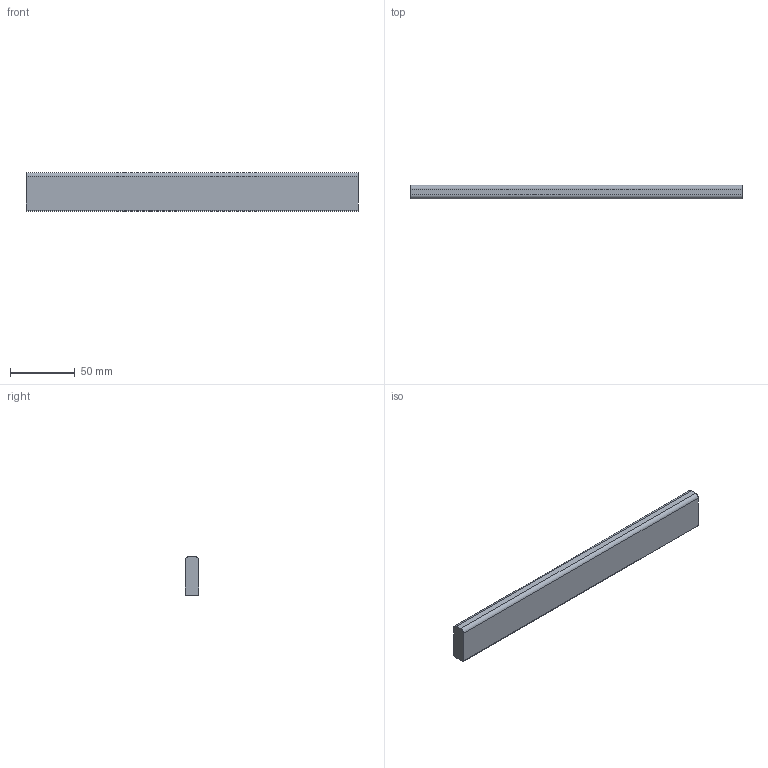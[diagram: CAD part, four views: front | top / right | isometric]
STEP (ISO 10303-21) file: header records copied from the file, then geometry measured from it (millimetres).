
FILE_DESCRIPTION (( 'STEP AP214' ), '1' );
FILE_NAME ('_Querreling_KAB-350_KS-19.step', '2010-08-26T14:58:33', ( 'grass' ), ( '' ), 'SwSTEP 2.0', 'SolidWorks 2009', '' );
FILE_SCHEMA (( 'AUTOMOTIVE_DESIGN' ));
Length unit declared in the file: millimetre
Products named in the file (1): _Querreling_KAB-350_KS-19
Bounding box: 256.5 x 10.5 x 30 mm (x, y, z)
Volume: 79696.6 mm3; surface area: 20517.2 mm2
Topology: 1 solids, 1 shells, 10 faces, 24 edges, 16 vertices
Faces by surface type: plane 6, cylinder 4
Entity records: 330 total; most frequent: DIRECTION 54, CARTESIAN_POINT 51, ORIENTED_EDGE 48, EDGE_CURVE 24, AXIS2_PLACEMENT_3D 19, LINE 16, VECTOR 16, VERTEX_POINT 16
